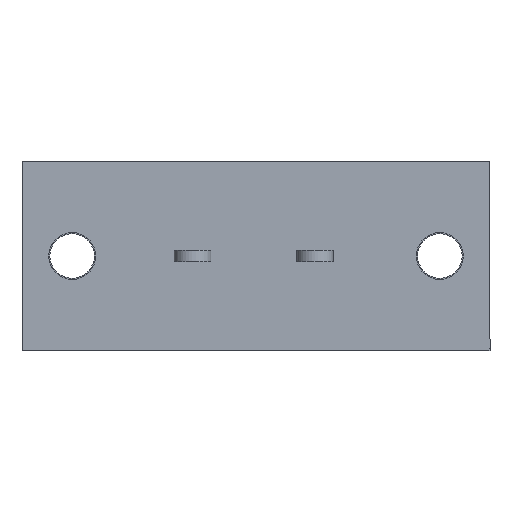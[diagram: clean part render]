
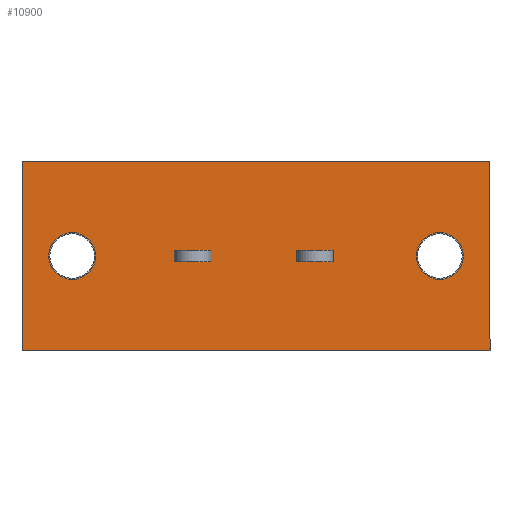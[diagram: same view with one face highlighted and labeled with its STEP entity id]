
A CAD part, front view. The second image highlights one B-rep face of the part: STEP entity #10900.
In plain terms, the highlighted planar face has unit normal (0, -1, 0).
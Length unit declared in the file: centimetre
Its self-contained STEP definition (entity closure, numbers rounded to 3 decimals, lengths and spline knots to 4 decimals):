
#556=VECTOR('',#11476,1.);
#560=VECTOR('',#11483,1.);
#570=VECTOR('',#11511,1.);
#573=VECTOR('',#11523,1.);
#1120=VECTOR('',#12437,1.);
#1212=VECTOR('',#12631,1.);
#1215=VECTOR('',#12639,1.);
#1227=VECTOR('',#12672,1.);
#1229=VECTOR('',#12679,1.);
#1666=VECTOR('',#13292,1.);
#1709=VECTOR('',#13392,1.);
#1710=VECTOR('',#13393,1.);
#1763=LINE('',#13629,#556);
#1767=LINE('',#13640,#560);
#1777=LINE('',#13671,#570);
#1780=LINE('',#13682,#573);
#2327=LINE('',#15661,#1120);
#2419=LINE('',#15896,#1212);
#2422=LINE('',#15907,#1215);
#2434=LINE('',#15939,#1227);
#2436=LINE('',#15946,#1229);
#2873=LINE('',#17536,#1666);
#2916=LINE('',#17660,#1709);
#2917=LINE('',#17661,#1710);
#2990=VERTEX_POINT('',#13630);
#2991=VERTEX_POINT('',#13631);
#2995=VERTEX_POINT('',#13641);
#3005=VERTEX_POINT('',#13672);
#3499=VERTEX_POINT('',#15662);
#3500=VERTEX_POINT('',#15663);
#3511=VERTEX_POINT('',#15687);
#3580=VERTEX_POINT('',#15897);
#3581=VERTEX_POINT('',#15898);
#3585=VERTEX_POINT('',#15908);
#3592=VERTEX_POINT('',#15940);
#3959=VERTEX_POINT('',#17537);
#3960=VERTEX_POINT('',#17538);
#3971=VERTEX_POINT('',#17562);
#4102=CIRCLE('',#18057,0.21);
#4144=CIRCLE('',#18302,0.21);
#4238=EDGE_CURVE('',#2990,#2991,#1763,.T.);
#4243=EDGE_CURVE('',#2995,#2990,#1767,.T.);
#4258=EDGE_CURVE('',#2991,#3005,#1777,.T.);
#4263=EDGE_CURVE('',#3005,#2995,#1780,.T.);
#4991=EDGE_CURVE('',#3499,#3500,#2327,.T.);
#5003=EDGE_CURVE('',#3511,#3511,#4102,.T.);
#5110=EDGE_CURVE('',#3580,#3581,#2419,.T.);
#5115=EDGE_CURVE('',#3581,#3585,#2422,.T.);
#5132=EDGE_CURVE('',#3585,#3592,#2434,.T.);
#5135=EDGE_CURVE('',#3592,#3580,#2436,.T.);
#5685=EDGE_CURVE('',#3959,#3960,#2873,.T.);
#5697=EDGE_CURVE('',#3971,#3971,#4144,.T.);
#5748=EDGE_CURVE('',#3500,#3959,#2916,.T.);
#5749=EDGE_CURVE('',#3960,#3499,#2917,.T.);
#8874=ORIENTED_EDGE('',*,*,#4243,.T.);
#8875=ORIENTED_EDGE('',*,*,#4238,.T.);
#8876=ORIENTED_EDGE('',*,*,#4258,.T.);
#8877=ORIENTED_EDGE('',*,*,#4263,.T.);
#8878=ORIENTED_EDGE('',*,*,#5003,.T.);
#8879=ORIENTED_EDGE('',*,*,#5132,.F.);
#8880=ORIENTED_EDGE('',*,*,#5115,.F.);
#8881=ORIENTED_EDGE('',*,*,#5110,.F.);
#8882=ORIENTED_EDGE('',*,*,#5135,.F.);
#8883=ORIENTED_EDGE('',*,*,#5697,.T.);
#8884=ORIENTED_EDGE('',*,*,#5748,.T.);
#8885=ORIENTED_EDGE('',*,*,#5685,.T.);
#8886=ORIENTED_EDGE('',*,*,#5749,.T.);
#8887=ORIENTED_EDGE('',*,*,#4991,.T.);
#9628=EDGE_LOOP('',(#8874,#8875,#8876,#8877));
#9629=EDGE_LOOP('',(#8878));
#9630=EDGE_LOOP('',(#8879,#8880,#8881,#8882));
#9631=EDGE_LOOP('',(#8883));
#9632=EDGE_LOOP('',(#8884,#8885,#8886,#8887));
#10300=FACE_BOUND('',#9628,.T.);
#10301=FACE_BOUND('',#9629,.T.);
#10302=FACE_BOUND('',#9630,.T.);
#10303=FACE_BOUND('',#9631,.T.);
#10304=FACE_BOUND('',#9632,.T.);
#10900=ADVANCED_FACE('',(#10300,#10301,#10302,#10303,#10304),#11312,.T.);
#11312=PLANE('',#18328);
#11476=DIRECTION('',(1.,0.,0.));
#11483=DIRECTION('',(0.,0.,1.));
#11511=DIRECTION('',(0.,0.,-1.));
#11523=DIRECTION('',(-1.,0.,0.));
#12437=DIRECTION('',(1.,0.,0.));
#12455=DIRECTION('',(0.,1.,0.));
#12456=DIRECTION('',(0.,0.,-0.21));
#12631=DIRECTION('',(0.,0.,1.));
#12639=DIRECTION('',(-1.,0.,0.));
#12672=DIRECTION('',(0.,0.,-1.));
#12679=DIRECTION('',(1.,0.,0.));
#13292=DIRECTION('',(-1.,0.,0.));
#13310=DIRECTION('',(0.,1.,0.));
#13311=DIRECTION('',(0.,0.,0.21));
#13391=DIRECTION('',(0.,-1.,0.));
#13392=DIRECTION('',(0.,0.,1.));
#13393=DIRECTION('',(0.,0.,-1.));
#13629=CARTESIAN_POINT('',(0.,-0.95,1.265));
#13630=CARTESIAN_POINT('',(-0.05,-0.95,1.265));
#13631=CARTESIAN_POINT('',(0.05,-0.95,1.265));
#13640=CARTESIAN_POINT('',(-0.05,-0.95,1.335));
#13641=CARTESIAN_POINT('',(-0.05,-0.95,0.935));
#13671=CARTESIAN_POINT('',(0.05,-0.95,1.335));
#13672=CARTESIAN_POINT('',(0.05,-0.95,0.935));
#13682=CARTESIAN_POINT('',(0.,-0.95,0.935));
#15661=CARTESIAN_POINT('',(0.85,-0.95,-1.53));
#15662=CARTESIAN_POINT('',(-0.85,-0.95,-1.53));
#15663=CARTESIAN_POINT('',(0.85,-0.95,-1.53));
#15686=CARTESIAN_POINT('',(0.,-0.95,-1.08));
#15687=CARTESIAN_POINT('',(0.,-0.95,-0.87));
#15896=CARTESIAN_POINT('',(0.05,-0.95,-0.215));
#15897=CARTESIAN_POINT('',(0.05,-0.95,-0.165));
#15898=CARTESIAN_POINT('',(0.05,-0.95,0.165));
#15907=CARTESIAN_POINT('',(0.,-0.95,0.165));
#15908=CARTESIAN_POINT('',(-0.05,-0.95,0.165));
#15939=CARTESIAN_POINT('',(-0.05,-0.95,-0.215));
#15940=CARTESIAN_POINT('',(-0.05,-0.95,-0.165));
#15946=CARTESIAN_POINT('',(0.,-0.95,-0.165));
#17536=CARTESIAN_POINT('',(-0.85,-0.95,2.67));
#17537=CARTESIAN_POINT('',(0.85,-0.95,2.67));
#17538=CARTESIAN_POINT('',(-0.85,-0.95,2.67));
#17561=CARTESIAN_POINT('',(0.,-0.95,2.22));
#17562=CARTESIAN_POINT('',(0.,-0.95,2.01));
#17659=CARTESIAN_POINT('',(0.,-0.95,1.57));
#17660=CARTESIAN_POINT('',(0.85,-0.95,1.57));
#17661=CARTESIAN_POINT('',(-0.85,-0.95,-0.63));
#18057=AXIS2_PLACEMENT_3D('',#15686,#12455,#12456);
#18302=AXIS2_PLACEMENT_3D('',#17561,#13310,#13311);
#18328=AXIS2_PLACEMENT_3D('',#17659,#13391,$);
